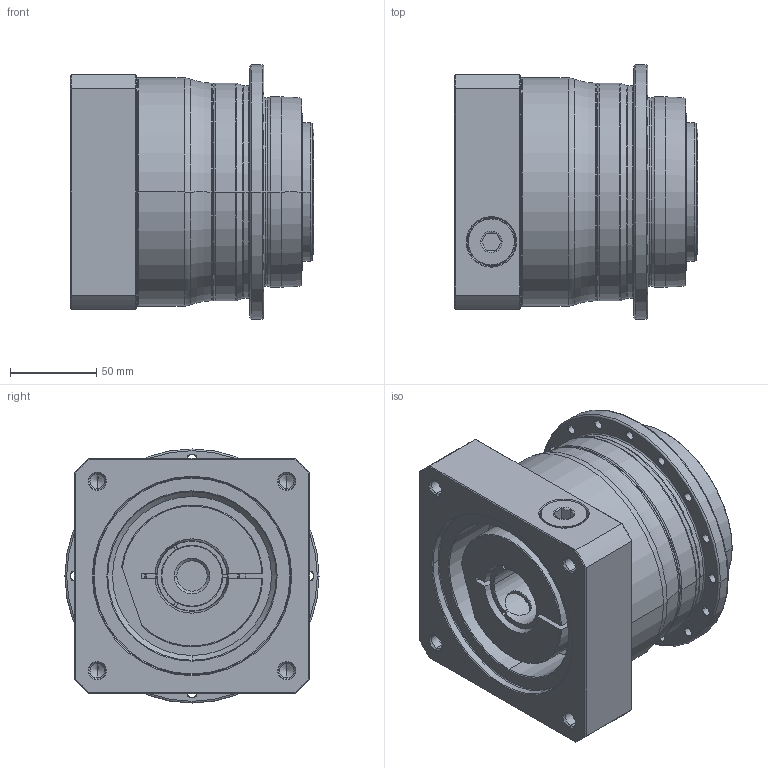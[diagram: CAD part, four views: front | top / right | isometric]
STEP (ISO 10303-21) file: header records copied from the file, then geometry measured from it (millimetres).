
FILE_DESCRIPTION((''),'2;1');
FILE_NAME('AP110_1ST_35-P0409800201_ASM','2018-05-24T',('d01226'),(''),'PRO/ENGINEER BY PARAMETRIC TECHNOLOGY CORPORATION, 2008410','PRO/ENGINEER BY PARAMETRIC TECHNOLOGY CORPORATION, 2008410','');
FILE_SCHEMA(('CONFIG_CONTROL_DESIGN'));
Length unit declared in the file: millimetre
Products named in the file (9): P0278401003; P0359401103; P1318410401; P0503800012; P0912404001; P1211400002; P0409800201; 21711422019; AP110_1ST_35-P0409800201_ASM
Assembly tree (8 placements, depth 2):
  AP110_1ST_35-P0409800201_ASM
    P0278401003
    P0359401103
    P1318410401
    P0503800012
    P0912404001
    P1211400002
    P0409800201
    21711422019
Bounding box: 141 x 147 x 147 mm (x, y, z)
Volume: 1478787.9 mm3; surface area: 255126.4 mm2
Topology: 9 solids, 30 shells, 564 faces, 1301 edges, 800 vertices
Faces by surface type: cylinder 232, cone 148, plane 100, torus 70, bspline 14
Entity records: 21009 total; most frequent: CARTESIAN_POINT 7520, DIRECTION 3097, ORIENTED_EDGE 2500, AXIS2_PLACEMENT_3D 1326, EDGE_CURVE 1293, VERTEX_POINT 800, CIRCLE 749, EDGE_LOOP 691
